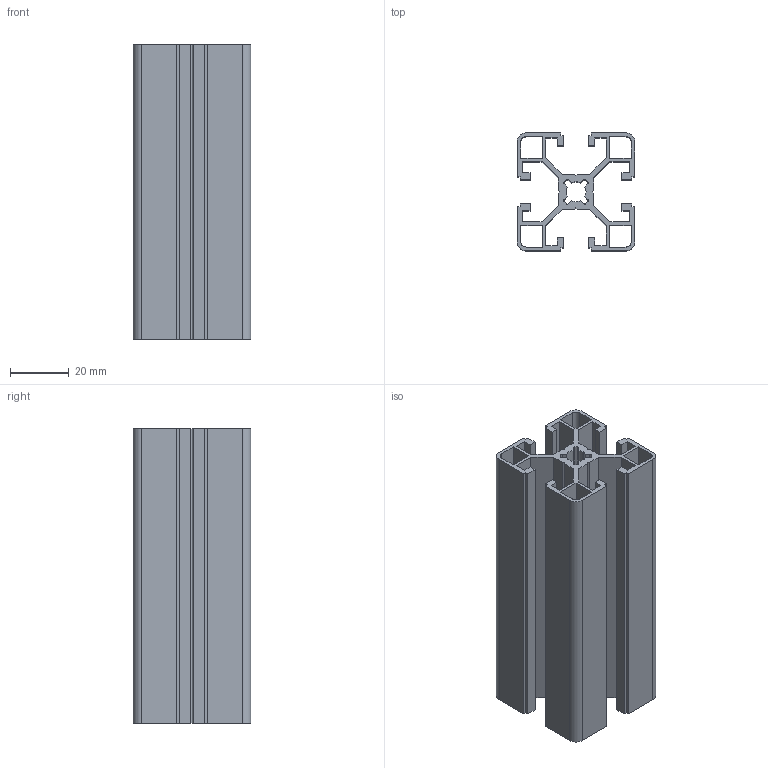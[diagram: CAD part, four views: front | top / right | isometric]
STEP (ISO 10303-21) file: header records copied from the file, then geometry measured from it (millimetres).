
FILE_DESCRIPTION (( 'STEP AP214' ), '1' );
FILE_NAME ('40õ40L.STEP', '2015-03-03T12:15:35', ( 'Matveev' ), ( '' ), 'SwSTEP 2.0', 'SolidWorks 2014', '' );
FILE_SCHEMA (( 'AUTOMOTIVE_DESIGN' ));
Length unit declared in the file: millimetre
Products named in the file (1): 40õ40L
Bounding box: 40 x 40 x 100 mm (x, y, z)
Volume: 42033.9 mm3; surface area: 54424.7 mm2
Topology: 1 solids, 1 shells, 141 faces, 417 edges, 278 vertices
Faces by surface type: plane 118, cylinder 23
Entity records: 4711 total; most frequent: CARTESIAN_POINT 837, ORIENTED_EDGE 834, DIRECTION 747, EDGE_CURVE 417, LINE 371, VECTOR 371, VERTEX_POINT 278, AXIS2_PLACEMENT_3D 188
